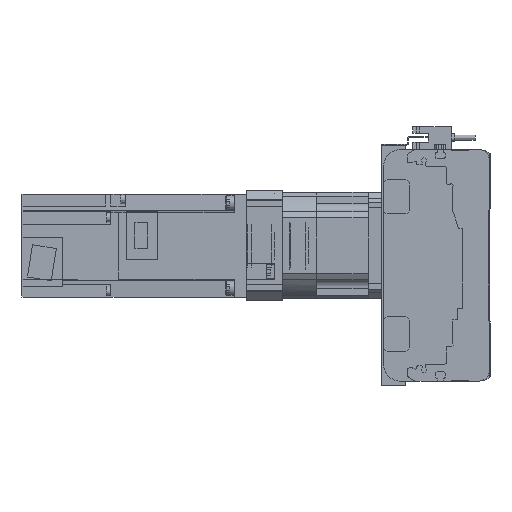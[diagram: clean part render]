
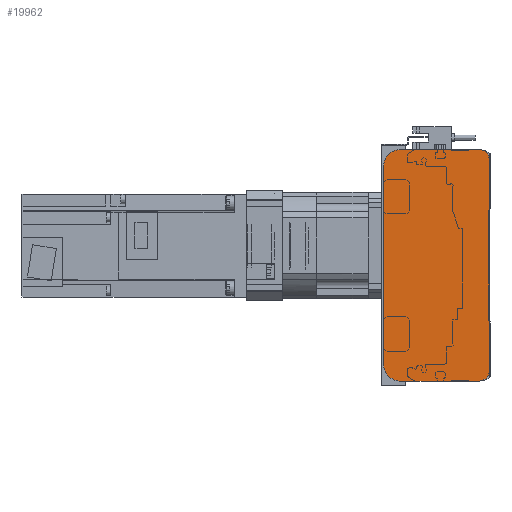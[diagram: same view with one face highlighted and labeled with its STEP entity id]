
A CAD part, left-side view. The second image highlights one B-rep face of the part: STEP entity #19962.
In plain terms, the highlighted planar face has unit normal (-1, 0, 0).
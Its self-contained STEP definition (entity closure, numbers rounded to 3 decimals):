
#1276=CIRCLE('',#21867,5.);
#1277=CIRCLE('',#21870,5.);
#1278=CIRCLE('',#21873,10.);
#1279=CIRCLE('',#21876,10.);
#5911=ORIENTED_EDGE('',*,*,#9043,.F.);
#5912=ORIENTED_EDGE('',*,*,#9200,.F.);
#5913=ORIENTED_EDGE('',*,*,#9192,.F.);
#5914=ORIENTED_EDGE('',*,*,#9190,.F.);
#5915=ORIENTED_EDGE('',*,*,#8827,.F.);
#5916=ORIENTED_EDGE('',*,*,#9189,.F.);
#5917=ORIENTED_EDGE('',*,*,#9187,.F.);
#5918=ORIENTED_EDGE('',*,*,#9185,.F.);
#5919=ORIENTED_EDGE('',*,*,#9183,.F.);
#5920=ORIENTED_EDGE('',*,*,#9181,.F.);
#8827=EDGE_CURVE('',#10974,#10975,#12736,.T.);
#9043=EDGE_CURVE('',#11075,#11076,#12879,.T.);
#9181=EDGE_CURVE('',#11076,#11159,#13008,.T.);
#9183=EDGE_CURVE('',#11159,#11160,#1276,.T.);
#9185=EDGE_CURVE('',#11160,#11161,#13011,.T.);
#9187=EDGE_CURVE('',#11161,#11162,#1277,.T.);
#9189=EDGE_CURVE('',#11162,#10974,#13014,.T.);
#9190=EDGE_CURVE('',#10975,#11163,#1278,.T.);
#9192=EDGE_CURVE('',#11163,#11164,#13016,.T.);
#9200=EDGE_CURVE('',#11164,#11075,#1279,.T.);
#10974=VERTEX_POINT('',#32832);
#10975=VERTEX_POINT('',#32834);
#11075=VERTEX_POINT('',#33225);
#11076=VERTEX_POINT('',#33227);
#11159=VERTEX_POINT('',#33504);
#11160=VERTEX_POINT('',#33508);
#11161=VERTEX_POINT('',#33512);
#11162=VERTEX_POINT('',#33516);
#11163=VERTEX_POINT('',#33522);
#11164=VERTEX_POINT('',#33526);
#12736=LINE('',#32833,#14489);
#12879=LINE('',#33226,#14632);
#13008=LINE('',#33503,#14761);
#13011=LINE('',#33511,#14764);
#13014=LINE('',#33519,#14767);
#13016=LINE('',#33525,#14769);
#14489=VECTOR('',#26448,1000.);
#14632=VECTOR('',#26889,1000.);
#14761=VECTOR('',#27148,1000.);
#14764=VECTOR('',#27157,1000.);
#14767=VECTOR('',#27166,1000.);
#14769=VECTOR('',#27174,1000.);
#16193=EDGE_LOOP('',(#5911,#5912,#5913,#5914,#5915,#5916,#5917,#5918,#5919,
#5920));
#17932=FACE_BOUND('',#16193,.T.);
#18919=PLANE('',#21877);
#19962=ADVANCED_FACE('',(#17932),#18919,.F.);
#21867=AXIS2_PLACEMENT_3D('',#33507,#27152,#27153);
#21870=AXIS2_PLACEMENT_3D('',#33515,#27161,#27162);
#21873=AXIS2_PLACEMENT_3D('',#33521,#27169,#27170);
#21876=AXIS2_PLACEMENT_3D('',#33539,#27184,#27185);
#21877=AXIS2_PLACEMENT_3D('',#33540,#27186,#27187);
#26448=DIRECTION('',(0.,1.,0.));
#26889=DIRECTION('',(0.,-1.,0.));
#27148=DIRECTION('',(0.,-0.942,-0.336));
#27152=DIRECTION('',(1.,0.,0.));
#27153=DIRECTION('',(0.,0.,-1.));
#27157=DIRECTION('',(0.,0.,-1.));
#27161=DIRECTION('',(1.,0.,0.));
#27162=DIRECTION('',(0.,0.,-1.));
#27166=DIRECTION('',(0.,0.942,-0.336));
#27169=DIRECTION('',(1.,0.,0.));
#27170=DIRECTION('',(0.,0.,-1.));
#27174=DIRECTION('',(0.,0.,1.));
#27184=DIRECTION('',(1.,0.,0.));
#27185=DIRECTION('',(0.,0.,-1.));
#27186=DIRECTION('',(1.,0.,0.));
#27187=DIRECTION('',(0.,0.,-1.));
#32832=CARTESIAN_POINT('',(-10.,6.,-67.5));
#32833=CARTESIAN_POINT('',(-10.,6.,-67.5));
#32834=CARTESIAN_POINT('',(-10.,52.,-67.5));
#33225=CARTESIAN_POINT('',(-10.,52.,67.5));
#33226=CARTESIAN_POINT('',(-10.,52.,67.5));
#33227=CARTESIAN_POINT('',(-10.,6.,67.5));
#33503=CARTESIAN_POINT('',(-10.,6.,67.5));
#33504=CARTESIAN_POINT('',(-10.,3.822,66.724));
#33507=CARTESIAN_POINT('',(-10.,5.5,62.014));
#33508=CARTESIAN_POINT('',(-10.,0.5,62.014));
#33511=CARTESIAN_POINT('',(-10.,0.5,62.014));
#33512=CARTESIAN_POINT('',(-10.,0.5,-62.014));
#33515=CARTESIAN_POINT('',(-10.,5.5,-62.014));
#33516=CARTESIAN_POINT('',(-10.,3.822,-66.724));
#33519=CARTESIAN_POINT('',(-10.,3.822,-66.724));
#33521=CARTESIAN_POINT('',(-10.,52.,-57.5));
#33522=CARTESIAN_POINT('',(-10.,62.,-57.5));
#33525=CARTESIAN_POINT('',(-10.,62.,-57.5));
#33526=CARTESIAN_POINT('',(-10.,62.,57.5));
#33539=CARTESIAN_POINT('',(-10.,52.,57.5));
#33540=CARTESIAN_POINT('',(-10.,5.5,62.014));
